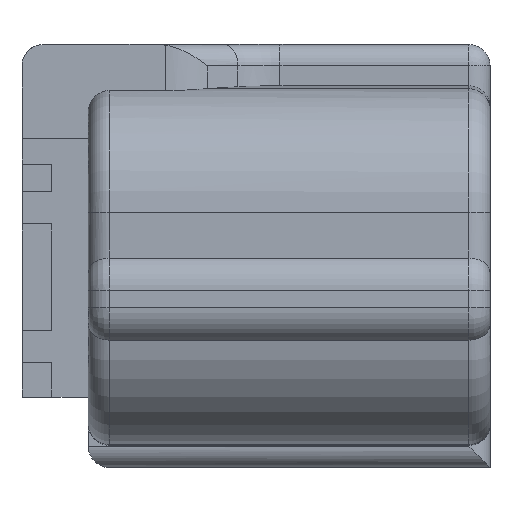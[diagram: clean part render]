
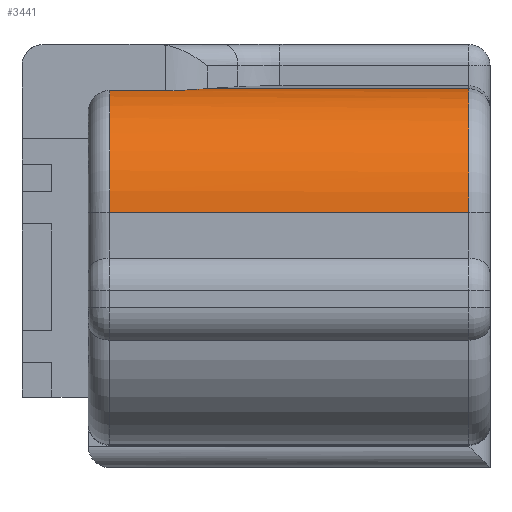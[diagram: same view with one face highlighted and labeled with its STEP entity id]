
A CAD part, front view. The second image highlights one B-rep face of the part: STEP entity #3441.
In plain terms, the highlighted cylindrical face has radius 5.8 mm (diameter 11.6 mm), a partial arc.
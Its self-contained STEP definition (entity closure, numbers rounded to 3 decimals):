
#1939=CARTESIAN_POINT('Vertex',(-17.8,-1.6,7.238)) ;
#1942=CARTESIAN_POINT('Line Origine',(-16.487,-1.6,7.238)) ;
#1946=CARTESIAN_POINT('Vertex',(-15.174,-1.6,7.238)) ;
#3363=CARTESIAN_POINT('Control Point',(-15.174,-1.6,7.238)) ;
#3364=CARTESIAN_POINT('Control Point',(-14.673,-1.6,7.238)) ;
#3365=CARTESIAN_POINT('Control Point',(-14.172,-1.488,7.261)) ;
#3366=CARTESIAN_POINT('Control Point',(-13.711,-1.266,7.301)) ;
#3367=CARTESIAN_POINT('Control Point',(-13.318,-0.957,7.326)) ;
#3368=CARTESIAN_POINT('Vertex',(-13.318,-0.957,7.326)) ;
#3402=CARTESIAN_POINT('Axis2P3D Location',(-10.01,-0.5,1.544)) ;
#3407=CARTESIAN_POINT('Line Origine',(-10.01,-6.3,1.544)) ;
#3411=CARTESIAN_POINT('Vertex',(-1.,-6.3,1.544)) ;
#3413=CARTESIAN_POINT('Vertex',(-17.8,-6.3,1.544)) ;
#3416=CARTESIAN_POINT('Axis2P3D Location',(-1.,-0.5,1.544)) ;
#3420=CARTESIAN_POINT('Vertex',(-1.,-0.957,7.326)) ;
#3423=CARTESIAN_POINT('Line Origine',(-10.01,-0.957,7.326)) ;
#3428=CARTESIAN_POINT('Axis2P3D Location',(-17.8,-0.5,1.544)) ;
#1943=DIRECTION('Vector Direction',(-1.,0.,0.)) ;
#3403=DIRECTION('Axis2P3D Direction',(1.,0.,0.)) ;
#3404=DIRECTION('Axis2P3D XDirection',(0.,-0.079,0.997)) ;
#3408=DIRECTION('Vector Direction',(1.,0.,0.)) ;
#3417=DIRECTION('Axis2P3D Direction',(1.,0.,0.)) ;
#3424=DIRECTION('Vector Direction',(1.,0.,0.)) ;
#3429=DIRECTION('Axis2P3D Direction',(1.,0.,0.)) ;
#3405=AXIS2_PLACEMENT_3D('Cylinder Axis2P3D',#3402,#3403,#3404) ;
#3418=AXIS2_PLACEMENT_3D('Circle Axis2P3D',#3416,#3417,$) ;
#3430=AXIS2_PLACEMENT_3D('Circle Axis2P3D',#3428,#3429,$) ;
#3434=ORIENTED_EDGE('',*,*,#3415,.F.) ;
#3435=ORIENTED_EDGE('',*,*,#3422,.F.) ;
#3436=ORIENTED_EDGE('',*,*,#3427,.T.) ;
#3437=ORIENTED_EDGE('',*,*,#3370,.F.) ;
#3438=ORIENTED_EDGE('',*,*,#1948,.T.) ;
#3439=ORIENTED_EDGE('',*,*,#3432,.T.) ;
#1944=VECTOR('Line Direction',#1943,1.) ;
#3409=VECTOR('Line Direction',#3408,1.) ;
#3425=VECTOR('Line Direction',#3424,1.) ;
#3441=ADVANCED_FACE('\X2\FF8AFF9FFF70FF82\X0\ \X2\FF8EFF9EFF83FF9EFF68FF70\X0\',(#3440),#3406,.T.) ;
#3362=B_SPLINE_CURVE_WITH_KNOTS('',4,(#3363,#3364,#3365,#3366,#3367),.UNSPECIFIED.,.F.,.U.,(5,5),(0.,2.833),.UNSPECIFIED.) ;
#3419=CIRCLE('generated circle',#3418,5.8) ;
#3431=CIRCLE('generated circle',#3430,5.8) ;
#3406=CYLINDRICAL_SURFACE('generated cylinder',#3405,5.8) ;
#1948=EDGE_CURVE('',#1947,#1940,#1945,.T.) ;
#3370=EDGE_CURVE('',#1947,#3369,#3362,.T.) ;
#3415=EDGE_CURVE('',#3412,#3414,#3410,.F.) ;
#3422=EDGE_CURVE('',#3421,#3412,#3419,.T.) ;
#3427=EDGE_CURVE('',#3421,#3369,#3426,.F.) ;
#3432=EDGE_CURVE('',#1940,#3414,#3431,.T.) ;
#3433=EDGE_LOOP('',(#3434,#3435,#3436,#3437,#3438,#3439)) ;
#3440=FACE_OUTER_BOUND('',#3433,.T.) ;
#1945=LINE('Line',#1942,#1944) ;
#3410=LINE('Line',#3407,#3409) ;
#3426=LINE('Line',#3423,#3425) ;
#1940=VERTEX_POINT('',#1939) ;
#1947=VERTEX_POINT('',#1946) ;
#3369=VERTEX_POINT('',#3368) ;
#3412=VERTEX_POINT('',#3411) ;
#3414=VERTEX_POINT('',#3413) ;
#3421=VERTEX_POINT('',#3420) ;
